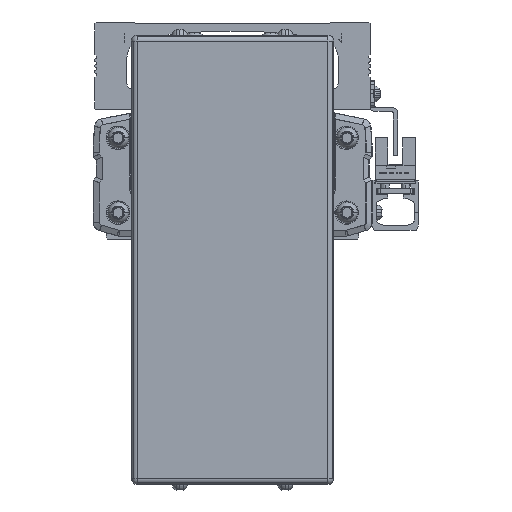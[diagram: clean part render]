
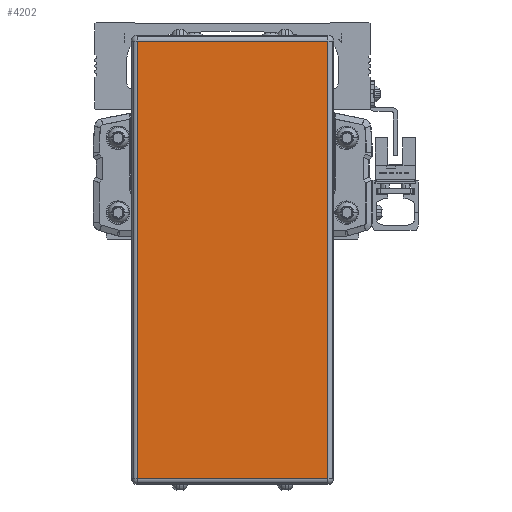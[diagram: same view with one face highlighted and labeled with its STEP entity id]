
A CAD part, front view. The second image highlights one B-rep face of the part: STEP entity #4202.
In plain terms, the highlighted planar face has unit normal (0, -1, 0).
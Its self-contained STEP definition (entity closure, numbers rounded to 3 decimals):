
#4202=ADVANCED_FACE('',(#10306),#10307,.T.);
#10306=FACE_OUTER_BOUND('',#19085,.T.);
#10307=PLANE('',#19086);
#19085=EDGE_LOOP('',(#32635,#32636,#32637,#32638));
#19086=AXIS2_PLACEMENT_3D('',#32639,#32640,#32641);
#32635=ORIENTED_EDGE('',*,*,#54473,.F.);
#32636=ORIENTED_EDGE('',*,*,#54474,.F.);
#32637=ORIENTED_EDGE('',*,*,#54475,.F.);
#32638=ORIENTED_EDGE('',*,*,#54476,.F.);
#32639=CARTESIAN_POINT('',(0.,-389.778,-50.1));
#32640=DIRECTION('',(0.0,-1.0,0.));
#32641=DIRECTION('',(1.0,0.0,0.0));
#54473=EDGE_CURVE('',#66667,#66668,#66669,.T.);
#54474=EDGE_CURVE('',#66670,#66667,#66671,.T.);
#54475=EDGE_CURVE('',#62089,#66670,#66672,.T.);
#54476=EDGE_CURVE('',#66668,#62089,#66673,.T.);
#62089=VERTEX_POINT('',#76653);
#66667=VERTEX_POINT('',#83377);
#66668=VERTEX_POINT('',#83378);
#66669=LINE('',#83379,#83380);
#66670=VERTEX_POINT('',#83381);
#66671=LINE('',#83382,#83383);
#66672=LINE('',#83384,#83385);
#66673=LINE('',#83386,#83387);
#76653=CARTESIAN_POINT('',(-32.5,-389.778,-124.7));
#83377=CARTESIAN_POINT('',(32.5,-389.778,24.5));
#83378=CARTESIAN_POINT('',(32.5,-389.778,-124.7));
#83379=CARTESIAN_POINT('',(32.5,-389.778,-50.1));
#83380=VECTOR('',#99356,10.0);
#83381=CARTESIAN_POINT('',(-32.5,-389.778,24.5));
#83382=CARTESIAN_POINT('',(0.,-389.778,24.5));
#83383=VECTOR('',#99357,10.0);
#83384=CARTESIAN_POINT('',(-32.5,-389.778,-50.1));
#83385=VECTOR('',#99358,10.0);
#83386=CARTESIAN_POINT('',(0.,-389.778,-124.7));
#83387=VECTOR('',#99359,10.0);
#99356=DIRECTION('',(0.0,0.,-1.0));
#99357=DIRECTION('',(1.0,0.0,0.0));
#99358=DIRECTION('',(0.0,0.,1.0));
#99359=DIRECTION('',(-1.0,0.0,0.0));
